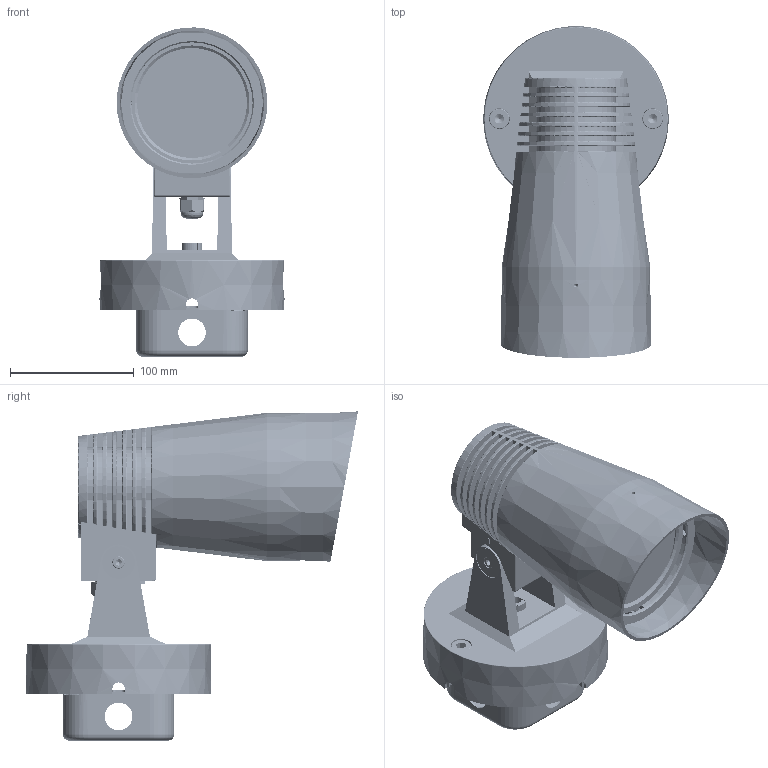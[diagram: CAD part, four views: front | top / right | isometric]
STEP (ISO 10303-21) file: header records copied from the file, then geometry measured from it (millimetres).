
FILE_DESCRIPTION((''),'2;1');
FILE_NAME('B3CJMT_ASM','2024-09-04T',('Administrator'),(''),'CREO PARAMETRIC BY PTC INC, 2015200','CREO PARAMETRIC BY PTC INC, 2015200','');
FILE_SCHEMA(('CONFIG_CONTROL_DESIGN'));
Length unit declared in the file: millimetre
Products named in the file (43): PRODUCT_111391; PART4_B3BQ; CROSS_RECESSED_COUNTERSUNK-1307; 3CJ_______-155958; PRT0004_229_1; B3BQ_____; B3BQ_ASM; 5YA_________; 3CJ________; 3CJ-3BQ_ASM; CROSS_RECESSED_COUNTERSUN-77679; PGB9____; CROSS_RECESSED_COUNTERSU-155188; HEXAGON_SOCKET_HEAD_CAP_SCR-122; 3CJ_________; M3X28______; PAIQIHUA; 3CJ_____-76524; 3CJ_______-77289; 3CJ___________-154028; 3CJ___________-154795; CROSS_RECESSED_PAN_HEAD_SCREWS_; 3CJ_____-231568; 3CJ_____-152519; 3CJ___________-76909; 3CJ-A_____; 3CJ-1111111; 3CJ_____ASM; 3CJ-A1; 3CJ___________Y_ASM; 3CJ-3BJ____________WU_____ASM; 3BJ________________Y_ASM; _S-B3CJM-2_ASM; 3CJ___-487439; HEXAGON_SOCKET_HEAD_CAP_-245478; 3CJ-CHI123_ASM; 3CJ-KEDUPAN; 3BJ-A2; 7BM-2021-1-19; M10-15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
Assembly tree (72 placements, depth 6):
  B3CJMT_ASM
    3CJ_____ASM
      3CJ-3BQ_ASM
        B3BQ_ASM
          PRODUCT_111391  x6
          PART4_B3BQ
          CROSS_RECESSED_COUNTERSUNK-1307  x5
          3CJ_______-155958
          PRT0004_229_1
          B3BQ_____
        5YA_________
        3CJ________
      CROSS_RECESSED_COUNTERSUN-77679  x6
      PGB9____
      CROSS_RECESSED_COUNTERSU-155188  x4
      HEXAGON_SOCKET_HEAD_CAP_SCR-122  x6
      3CJ_________
      M3X28______  x5
      PAIQIHUA
      3CJ_____-76524
      3CJ_______-77289
      3CJ___________-154028
      3CJ___________-154795
      CROSS_RECESSED_PAN_HEAD_SCREWS_  x2
      3CJ_____-231568
      3CJ_____-152519
      3CJ___________-76909
      3CJ-A_____
      3CJ-1111111
    3CJ-C1_ASM
      _S-B3CJM-2_ASM
        3BJ________________Y_ASM
          3CJ___________Y_ASM
            3CJ-A1
          3CJ-3BJ____________WU_____ASM
      3CJ-CHI123_ASM
        3CJ___-487439
        HEXAGON_SOCKET_HEAD_CAP_-245478  x2
      3CJ-KEDUPAN  x2
      3BJ-A2
      7BM-2021-1-19
      M10-15  x2
      6P-XIANKOU
Bounding box: 149.69 x 268.34 x 266.06 mm (x, y, z)
Volume: 893259.2 mm3; surface area: 639108.4 mm2
Topology: 64 solids, 64 shells, 5909 faces, 16332 edges, 10654 vertices
Faces by surface type: plane 2568, cylinder 1553, cone 856, bspline 402, torus 319, extrusion 179, sphere 16, revolution 16
Entity records: 209018 total; most frequent: CARTESIAN_POINT 78948, ORIENTED_EDGE 28498, DIRECTION 25353, EDGE_CURVE 14249, AXIS2_PLACEMENT_3D 9338, VERTEX_POINT 9323, VECTOR 6661, LINE 6482
